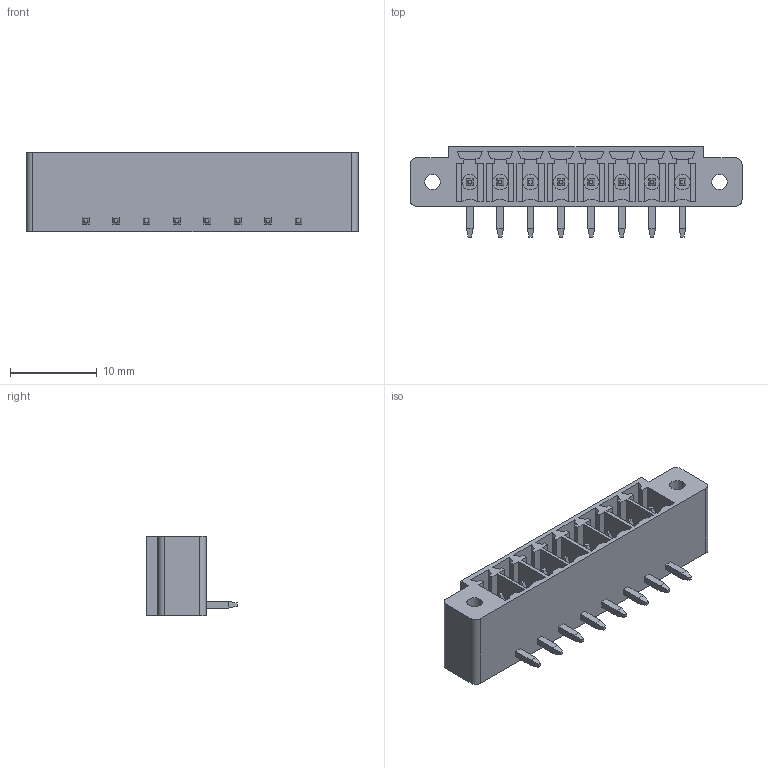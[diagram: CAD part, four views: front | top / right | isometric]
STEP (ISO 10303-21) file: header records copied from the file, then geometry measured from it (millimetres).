
FILE_DESCRIPTION((''),'2;1');
FILE_NAME('395061508','2015-01-20T',('me'),(''),'PRO/ENGINEER BY PARAMETRIC TECHNOLOGY CORPORATION, 2011490','PRO/ENGINEER BY PARAMETRIC TECHNOLOGY CORPORATION, 2011490','');
FILE_SCHEMA(('CONFIG_CONTROL_DESIGN'));
Length unit declared in the file: inch
Products named in the file (1): 395061508
Bounding box: 38.3 x 10.41 x 9.14 mm (x, y, z)
Volume: 1235.2 mm3; surface area: 3154 mm2
Topology: 1 solids, 1 shells, 344 faces, 888 edges, 592 vertices
Faces by surface type: plane 308, cylinder 36
Entity records: 10261 total; most frequent: CARTESIAN_POINT 1785, ORIENTED_EDGE 1720, DIRECTION 1666, EDGE_CURVE 860, VECTOR 800, LINE 800, VERTEX_POINT 552, AXIS2_PLACEMENT_3D 433
